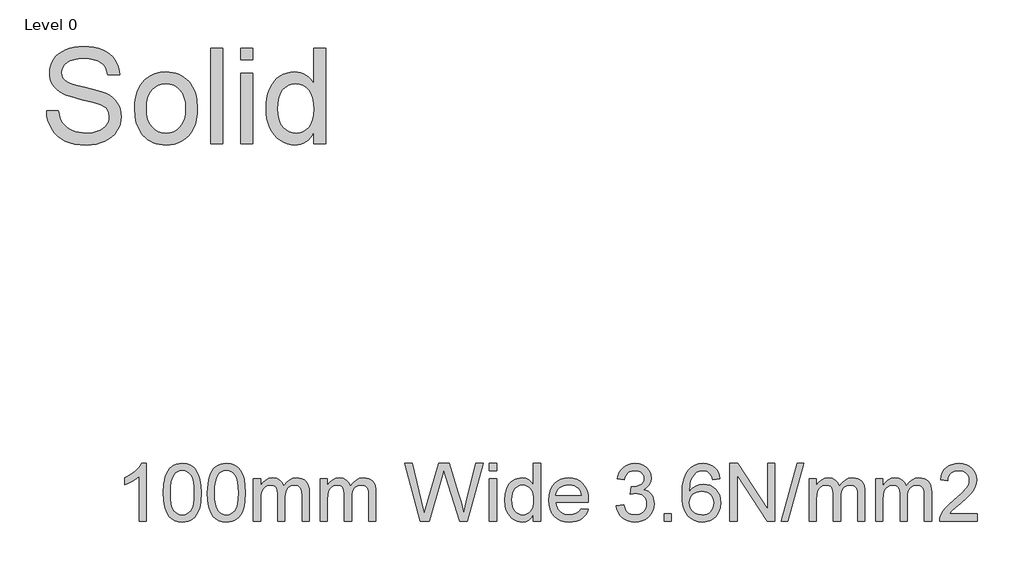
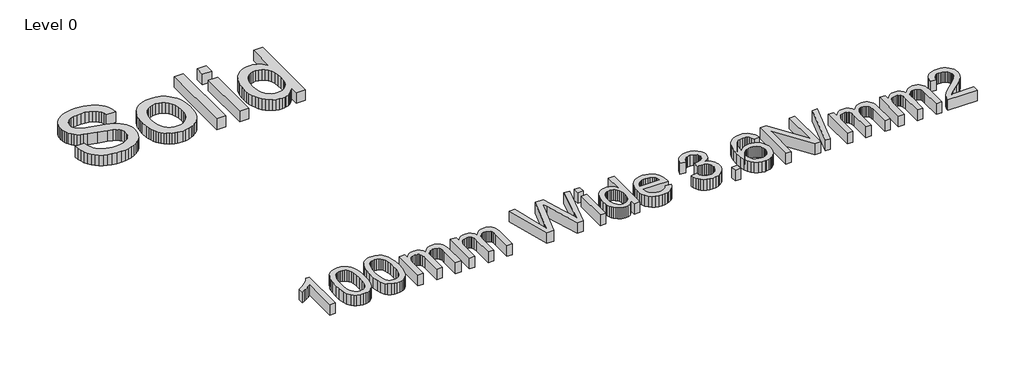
# One storey, part 4 of 4: 2 proxies.
"""IFC4 building model written with IfcOpenShell, lengths in millimetres."""

from ifc_helpers import new_model, si_unit, origin, origin_with_axes, place, context, project, spatial, polyline, outline, extrude, element, save

model = new_model("IFC4")

# Units and contexts
model_context = context("Model", 3, world=origin())
ifc_project = project(units=[si_unit("LENGTHUNIT", "METRE", prefix="MILLI")], contexts=[model_context])

# Site, building, storey
site = spatial("IfcSite", under=ifc_project)
building = spatial("IfcBuilding", under=site)
storey = spatial("IfcBuildingStorey", under=building, Name="Level 0", Elevation=0.0)

# Proxies
placement = place(None, origin())
element("IfcBuildingElementProxy", 1, Name="1000", ObjectType="1000", at=placement, inside=storey, context=model_context, shape_type="SweptSolid", body=[
    extrude(outline(polyline([(-39081.2208533, 23666.8068295), (-38958.7966109, 23666.8068295), (-38953.1924738, 23631.1719899), (-38944.7489073, 23598.8697438), (-38933.4659113, 23569.9000912), (-38919.3434859, 23544.2630322), (-38901.6643014, 23521.442986), (-38879.7110285, 23500.9243721), (-38853.483667, 23482.7071906), (-38822.9822169, 23466.7914413), (-38789.3275057, 23453.8720373), (-38753.6403609, 23444.6438916), (-38715.9207823, 23439.1070041), (-38676.1687699, 23437.261375), (-38607.9626857, 23442.8505677), (-38577.0427934, 23449.8370586), (-38548.245001, 23459.6181458), (-38522.2791659, 23471.8426368), (-38499.8551454, 23486.159339), (-38480.9729396, 23502.5682524), (-38465.6325484, 23521.0693769), (-38453.7592499, 23540.863189), (-38445.2783225, 23561.1501652), (-38440.189766, 23581.9303055), (-38438.4935806, 23603.2036098), (-38443.5746648, 23644.1810601), (-38458.8179177, 23679.5992064), (-38471.6401833, 23695.3132068), (-38489.7826431, 23709.8167135), (-38513.2452969, 23723.1097267), (-38542.0281449, 23735.1922462), (-38606.6774702, 23754.4107003), (-38720.284537, 23781.9382216), (-38837.2989191, 23812.8730582), (-38880.0024436, 23827.7800628), (-38912.1701904, 23842.3134583), (-38944.86099, 23861.8158553), (-38973.113313, 23883.5001297), (-38996.9271595, 23907.3662815), (-39016.3025294, 23933.4143106), (-39031.3141446, 23961.3752185), (-39042.0367269, 23990.9800066), (-39048.4702762, 24022.2286749), (-39050.6147927, 24055.1212235), (-39047.9621678, 24091.5780032), (-39040.0042931, 24126.8242893), (-39026.7411687, 24160.8600818), (-39008.1727946, 24193.6853807), (-38984.5083918, 24223.9626652), (-38955.9571814, 24250.3544148), (-38922.5191635, 24272.8606292), (-38884.1943381, 24291.4813087), (-38842.2753928, 24306.0744816), (-38798.0550152, 24316.4981766), (-38751.5332053, 24322.7523936), (-38702.7099631, 24324.8371326), (-38649.4482444, 24322.6552552), (-38599.4145086, 24316.1096231), (-38552.6087557, 24305.2002363), (-38509.0309859, 24289.9270947), (-38469.4881947, 24270.4246977), (-38434.7873779, 24246.8275445), (-38404.9285356, 24219.1356352), (-38379.9116677, 24187.3489697), (-38359.931051, 24152.3940987), (-38345.1809622, 24115.1975729), (-38335.6614013, 24075.7593923), (-38331.3723684, 24034.0795568), (-38453.7966109, 24034.0795568), (-38461.9861232, 24073.1441283), (-38476.2729366, 24107.1276155), (-38496.6570512, 24136.0300185), (-38523.1384669, 24159.8513371), (-38556.2103478, 24178.4720166), (-38596.365858, 24191.7725019), (-38643.6049975, 24199.7527931), (-38697.9277662, 24202.4128901), (-38753.9840813, 24199.7826818), (-38801.8807728, 24191.8920568), (-38841.6178407, 24178.7410151), (-38873.1952851, 24160.3295568), (-38897.2557136, 24138.1969515), (-38914.441734, 24113.8824687), (-38924.7533462, 24087.3861087), (-38928.1905503, 24058.7078712), (-38925.7546187, 24034.0347237), (-38918.4468239, 24011.6630085), (-38906.267166, 23991.5927256), (-38889.2156449, 23973.823875), (-38862.3755645, 23956.9965194), (-38820.1128987, 23939.9898314), (-38762.4276478, 23922.8038111), (-38689.3198116, 23905.4384583), (-38554.3423021, 23872.6206316), (-38506.8491085, 23857.7808766), (-38472.6862889, 23843.9872273), (-38435.1535149, 23823.0800599), (-38402.8961019, 23799.5725729), (-38375.9140499, 23773.4647663), (-38354.207359, 23744.7566401), (-38337.5219748, 23713.597638), (-38325.6038433, 23680.1372036), (-38318.4529644, 23644.3753369), (-38316.0693381, 23606.3120379), (-38318.8116292, 23568.0171012), (-38327.0385024, 23530.8429919), (-38340.7499578, 23494.7897101), (-38359.9459953, 23459.8572557), (-38384.2903668, 23427.3980937), (-38413.4468239, 23398.7646894), (-38447.4153668, 23373.9570426), (-38486.1959953, 23352.9751534), (-38528.66041, 23336.2897693), (-38573.6803111, 23324.3716378), (-38621.2556988, 23317.2207589), (-38671.386573, 23314.8371326), (-38734.0109367, 23317.4075634), (-38791.3300507, 23325.118856), (-38843.343915, 23337.9710104), (-38890.0525294, 23355.9640265), (-38931.7398371, 23379.1277931), (-38968.6897808, 23407.4921988), (-39000.9023607, 23441.0572438), (-39028.3775768, 23479.822928), (-39050.5101821, 23522.5339247), (-39066.69493, 23567.9349072), (-39076.9318204, 23616.0258755), (-39081.2208533, 23666.8068295)])), origin_with_axes(), (0.0, 0.0, 1.0), 150.0),
    extrude(outline(polyline([(-38178.3420654, 23689.761375), (-38176.6869769, 23737.9457455), (-38171.7217115, 23782.9096053), (-38163.4462691, 23824.6529544), (-38151.8606497, 23863.1757926), (-38136.9648533, 23898.4781201), (-38118.75888, 23930.5599368), (-38097.2427298, 23959.4212427), (-38072.4164025, 23985.0620379), (-38025.7600933, 24019.8973539), (-37974.2618097, 24044.7797225), (-37917.9215517, 24059.7091437), (-37856.7393192, 24064.6856174), (-37789.1982592, 24058.6256772), (-37757.8543205, 24051.0507519), (-37728.1281094, 24040.4458565), (-37700.0196259, 24026.810991), (-37673.52887, 24010.1461554), (-37648.6558416, 23990.4513497), (-37625.4005408, 23967.7265738), (-37604.3570061, 23942.3304927), (-37586.119276, 23914.6217709), (-37570.6873505, 23884.6004086), (-37558.0612297, 23852.2664058), (-37548.2409135, 23817.6197623), (-37541.2264019, 23780.6604783), (-37535.6147927, 23699.8039886), (-37538.0955574, 23634.2729458), (-37545.5378514, 23576.1244195), (-37557.9416748, 23525.3584098), (-37575.3070275, 23481.9749167), (-37597.4172163, 23444.5019201), (-37624.0555479, 23411.4674001), (-37655.2220222, 23382.8713566), (-37690.9166393, 23358.7137898), (-37729.7495731, 23339.5177522), (-37770.3309977, 23325.8062969), (-37812.6609131, 23317.5794236), (-37856.7393192, 23314.8371326), (-37925.2667073, 23320.8746562), (-37956.9468942, 23328.4215608), (-37986.904743, 23338.9872273), (-38015.1402536, 23352.5716555), (-38041.6534261, 23369.1748456), (-38066.4442604, 23388.7967976), (-38089.5127567, 23411.4375113), (-38110.3321259, 23436.9176546), (-38128.3755793, 23465.0578949), (-38143.6431167, 23495.8582322), (-38156.1347382, 23529.3186667), (-38165.8504439, 23565.4391981), (-38172.7902336, 23604.2198267), (-38178.3420654, 23689.761375)]), holes=[polyline([(-38055.917823, 23690.0004848), (-38052.3760083, 23630.6190484), (-38041.7505645, 23579.2029588), (-38024.0414913, 23535.752216), (-37999.2487889, 23500.2668201), (-37969.0910592, 23472.7019378), (-37935.2869044, 23453.0127363), (-37897.8363244, 23441.1992153), (-37856.7393192, 23437.261375), (-37815.8515351, 23441.2216319), (-37778.5503987, 23453.1024024), (-37744.8359101, 23472.9036868), (-37714.7080692, 23500.6254848), (-37689.9153668, 23536.4620734), (-37672.2062936, 23580.6077292), (-37661.5808497, 23633.0624522), (-37658.0390351, 23693.8262424), (-37661.6032663, 23751.3246888), (-37672.2959598, 23801.3957855), (-37690.1171157, 23844.0395325), (-37715.066734, 23879.2559299), (-37745.3066576, 23906.8208121), (-37778.9987297, 23926.5100137), (-37816.1429502, 23938.3235347), (-37856.7393192, 23942.261375), (-37897.8363244, 23938.338479), (-37935.2869044, 23926.5697912), (-37969.0910592, 23906.9553114), (-37999.2487889, 23879.4950398), (-38024.0414913, 23844.1142544), (-38041.7505645, 23800.7382334), (-38052.3760083, 23749.3669769), (-38055.917823, 23690.0004848)])]), origin_with_axes(), (0.0, 0.0, 1.0), 150.0),
    extrude(outline(polyline([(-37397.8875199, 23330.1401629), (-37397.8875199, 24309.5341023), (-37275.4632775, 24309.5341023), (-37275.4632775, 23330.1401629), (-37397.8875199, 23330.1401629)])), origin_with_axes(), (0.0, 0.0, 1.0), 150.0),
    extrude(outline(polyline([(-37091.8269139, 23330.1401629), (-37091.8269139, 24049.3825871), (-36969.4026715, 24049.3825871), (-36969.4026715, 23330.1401629), (-37091.8269139, 23330.1401629)])), origin_with_axes(), (0.0, 0.0, 1.0), 150.0),
    extrude(outline(polyline([(-37091.8269139, 24187.1098598), (-37091.8269139, 24309.5341023), (-36969.4026715, 24309.5341023), (-36969.4026715, 24187.1098598), (-37091.8269139, 24187.1098598)])), origin_with_axes(), (0.0, 0.0, 1.0), 150.0),
    extrude(outline(polyline([(-36341.978429, 23330.1401629), (-36341.978429, 23445.6302197), (-36359.3251013, 23414.9755899), (-36378.607069, 23388.4082441), (-36399.8243319, 23365.9281822), (-36422.9768902, 23347.5354043), (-36448.0647438, 23333.2299104), (-36475.0878928, 23323.0117005), (-36504.0463371, 23316.8807745), (-36534.9400768, 23314.8371326), (-36575.3496412, 23317.7961169), (-36614.0854366, 23326.6730701), (-36651.1474631, 23341.4679919), (-36686.5357207, 23362.1808826), (-36719.1443263, 23388.1915508), (-36747.8673968, 23418.8798054), (-36772.7049324, 23454.2456464), (-36793.6569328, 23494.2890738), (-36810.2900117, 23538.2479251), (-36822.1707823, 23585.3600374), (-36829.2992446, 23635.6254109), (-36831.6753987, 23689.0440454), (-36829.4860492, 23741.4838241), (-36822.9180005, 23791.4428381), (-36811.9712528, 23838.9210873), (-36796.6458059, 23883.918572), (-36776.9491322, 23925.1201877), (-36752.8887037, 23961.2108305), (-36724.4645204, 23992.1905002), (-36691.6765824, 24018.059197), (-36655.6830781, 24038.4582559), (-36617.6421956, 24053.0290123), (-36577.5539351, 24061.7714661), (-36535.4182965, 24064.6856174), (-36504.6030147, 24062.6008784), (-36475.5212794, 24056.3466614), (-36448.1730905, 24045.9229665), (-36422.558448, 24031.3297935), (-36398.9612948, 24013.4040271), (-36377.6655739, 23992.9825516), (-36358.6712853, 23970.0653671), (-36341.978429, 23944.6524735), (-36341.978429, 24309.5341023), (-36219.5541866, 24309.5341023), (-36219.5541866, 23330.1401629), (-36341.978429, 23330.1401629)]), holes=[polyline([(-36709.2511563, 23689.5222651), (-36705.7990079, 23630.1557731), (-36695.4425626, 23578.7845166), (-36678.1818204, 23535.4084956), (-36654.0167813, 23500.0277102), (-36625.1592115, 23472.5674386), (-36593.820877, 23452.9529588), (-36560.0017778, 23441.1842709), (-36523.7019139, 23437.261375), (-36487.2301898, 23441.0049386), (-36453.6128396, 23452.2356292), (-36422.8498631, 23470.9534471), (-36394.9412605, 23497.158392), (-36371.7700217, 23531.0596852), (-36355.2191369, 23572.8665478), (-36345.288606, 23622.5789797), (-36341.978429, 23680.196981), (-36345.3483835, 23743.3668141), (-36355.4582467, 23797.5401392), (-36372.3080189, 23842.7169562), (-36395.8976999, 23878.8972651), (-36424.4190215, 23906.6190632), (-36456.0637155, 23926.4203475), (-36490.8317819, 23938.3011181), (-36528.7232207, 23942.261375), (-36565.7404141, 23938.458034), (-36599.5595133, 23927.0480109), (-36630.1805183, 23908.0313057), (-36657.603429, 23881.4079185), (-36680.1993097, 23846.595019), (-36696.3392245, 23803.009777), (-36706.0231734, 23750.6521923), (-36709.2511563, 23689.5222651)])]), origin_with_axes(), (0.0, 0.0, 1.0), 150.0),
])
element("IfcBuildingElementProxy", 2, Name="600mm Arial", ObjectType="600mm Arial", at=placement, inside=storey, context=model_context, shape_type="SweptSolid", body=[
    extrude(outline(polyline([(-38059.2188157, 19460.2090521), (-38133.0649696, 19460.2090521), (-38133.0649696, 19920.5936675), (-38163.8942965, 19895.6597732), (-38203.0168926, 19870.7619367), (-38244.0866042, 19849.0011194), (-38280.7572773, 19833.4782829), (-38280.7572773, 19903.2859752), (-38222.7584792, 19934.8364559), (-38172.512085, 19972.3725136), (-38132.90271, 20012.288379), (-38106.8149696, 20050.9782829), (-38059.2188157, 20050.9782829), (-38059.2188157, 19460.2090521)])), origin_with_axes(), (0.0, 0.0, 1.0), 150.0),
    extrude(outline(polyline([(-37883.8342003, 19750.8340521), (-37878.4075176, 19845.3953502), (-37871.6241643, 19885.4960112), (-37862.1274696, 19920.8100136), (-37849.9579984, 19951.6258189), (-37835.1563157, 19978.2318886), (-37817.7224215, 20000.6282228), (-37797.6563157, 20018.8148213), (-37774.8903902, 20032.8863357), (-37749.3570369, 20042.9374175), (-37721.0562556, 20048.9680665), (-37689.9880465, 20050.9782829), (-37644.4832388, 20046.2186675), (-37603.7380465, 20031.9398213), (-37569.6635273, 20008.7006386), (-37544.1707388, 19977.0600136), (-37524.9159311, 19937.288379), (-37509.5553542, 19889.6561675), (-37499.495258, 19829.1693886), (-37496.1418926, 19750.8340521), (-37501.5144888, 19656.8136194), (-37508.230234, 19616.8481747), (-37517.6322773, 19581.5792444), (-37529.707097, 19550.7499175), (-37544.4411715, 19524.1032829), (-37561.8345008, 19501.6393405), (-37581.887085, 19483.3580905), (-37604.6800537, 19469.1919247), (-37630.2945369, 19459.0732348), (-37658.7305345, 19453.0020208), (-37689.9880465, 19450.9782829), (-37730.6611234, 19454.4939079), (-37766.7188157, 19465.0407829), (-37798.1611234, 19482.6189079), (-37824.9880465, 19507.2282829), (-37850.7332388, 19551.7144607), (-37869.1226619, 19607.1441482), (-37880.1563157, 19673.5173454), (-37883.8342003, 19750.8340521)]), holes=[polyline([(-37809.9880465, 19750.9782829), (-37807.824585, 19686.7820689), (-37801.3342003, 19634.8184271), (-37790.5168926, 19595.0873574), (-37775.3726619, 19567.5888598), (-37757.0553542, 19548.8794247), (-37736.7188157, 19535.5155425), (-37714.3630465, 19527.4972131), (-37689.9880465, 19524.8244367), (-37665.6130465, 19527.5062276), (-37643.2572773, 19535.5516002), (-37622.9207388, 19548.9605545), (-37604.6034311, 19567.7330905), (-37589.4592003, 19595.2766603), (-37578.6418926, 19634.9987155), (-37572.151508, 19686.8992564), (-37569.9880465, 19750.9782829), (-37572.0793926, 19813.475278), (-37578.3534311, 19864.5239559), (-37588.8101619, 19904.1243165), (-37603.449585, 19932.2763598), (-37621.4604023, 19951.9007588), (-37642.0313157, 19965.9181867), (-37665.1623253, 19974.3286434), (-37690.8534311, 19977.132129), (-37715.1022292, 19974.6621771), (-37737.0793926, 19967.2523213), (-37756.7849215, 19954.9025617), (-37774.2188157, 19937.6128982), (-37789.8678542, 19906.9638598), (-37801.0457388, 19865.6417444), (-37807.7524696, 19813.6465521), (-37809.9880465, 19750.9782829)])]), origin_with_axes(), (0.0, 0.0, 1.0), 150.0),
    extrude(outline(polyline([(-37431.526508, 19750.8340521), (-37426.0998253, 19845.3953502), (-37419.316472, 19885.4960112), (-37409.8197773, 19920.8100136), (-37397.6503061, 19951.6258189), (-37382.8486234, 19978.2318886), (-37365.4147292, 20000.6282228), (-37345.3486234, 20018.8148213), (-37322.5826979, 20032.8863357), (-37297.0493446, 20042.9374175), (-37268.7485633, 20048.9680665), (-37237.6803542, 20050.9782829), (-37192.1755465, 20046.2186675), (-37151.4303542, 20031.9398213), (-37117.355835, 20008.7006386), (-37091.8630465, 19977.0600136), (-37072.6082388, 19937.288379), (-37057.2476619, 19889.6561675), (-37047.1875657, 19829.1693886), (-37043.8342003, 19750.8340521), (-37049.2067965, 19656.8136194), (-37055.9225417, 19616.8481747), (-37065.324585, 19581.5792444), (-37077.3994047, 19550.7499175), (-37092.1334792, 19524.1032829), (-37109.5268085, 19501.6393405), (-37129.5793926, 19483.3580905), (-37152.3723614, 19469.1919247), (-37177.9868446, 19459.0732348), (-37206.4228422, 19453.0020208), (-37237.6803542, 19450.9782829), (-37278.3534311, 19454.4939079), (-37314.4111234, 19465.0407829), (-37345.8534311, 19482.6189079), (-37372.6803542, 19507.2282829), (-37398.4255465, 19551.7144607), (-37416.8149696, 19607.1441482), (-37427.8486234, 19673.5173454), (-37431.526508, 19750.8340521)]), holes=[polyline([(-37357.6803542, 19750.9782829), (-37355.5168926, 19686.7820689), (-37349.026508, 19634.8184271), (-37338.2092003, 19595.0873574), (-37323.0649696, 19567.5888598), (-37304.7476619, 19548.8794247), (-37284.4111234, 19535.5155425), (-37262.0553542, 19527.4972131), (-37237.6803542, 19524.8244367), (-37213.3053542, 19527.5062276), (-37190.949585, 19535.5516002), (-37170.6130465, 19548.9605545), (-37152.2957388, 19567.7330905), (-37137.151508, 19595.2766603), (-37126.3342003, 19634.9987155), (-37119.8438157, 19686.8992564), (-37117.6803542, 19750.9782829), (-37119.7717003, 19813.475278), (-37126.0457388, 19864.5239559), (-37136.5024696, 19904.1243165), (-37151.1418926, 19932.2763598), (-37169.15271, 19951.9007588), (-37189.7236234, 19965.9181867), (-37212.854633, 19974.3286434), (-37238.5457388, 19977.132129), (-37262.7945369, 19974.6621771), (-37284.7717003, 19967.2523213), (-37304.4772292, 19954.9025617), (-37321.9111234, 19937.6128982), (-37337.5601619, 19906.9638598), (-37348.7380465, 19865.6417444), (-37355.4447773, 19813.6465521), (-37357.6803542, 19750.9782829)])]), origin_with_axes(), (0.0, 0.0, 1.0), 150.0),
    extrude(outline(polyline([(-36960.7572773, 19460.2090521), (-36960.7572773, 19894.0552059), (-36886.9111234, 19894.0552059), (-36886.9111234, 19822.6609752), (-36864.699585, 19855.4554463), (-36836.1418926, 19881.1465521), (-36802.2116042, 19897.7511194), (-36763.8822773, 19903.2859752), (-36722.8125657, 19897.6429463), (-36705.3335994, 19890.5891603), (-36689.8918926, 19880.7138598), (-36665.3005465, 19853.616504), (-36649.2188157, 19817.4686675), (-36622.3017484, 19855.0137396), (-36591.5986234, 19881.8316482), (-36557.1094407, 19897.9223934), (-36518.8342003, 19903.2859752), (-36489.2713999, 19901.0549054), (-36463.323383, 19894.3616963), (-36440.9901499, 19883.2063478), (-36422.2717003, 19867.5888598), (-36407.4745249, 19847.3289439), (-36396.9051138, 19822.2463117), (-36390.5634672, 19792.3409631), (-36388.449585, 19757.6128982), (-36388.449585, 19460.2090521), (-36462.2957388, 19460.2090521), (-36462.2957388, 19725.882129), (-36464.0084792, 19762.7150617), (-36469.1467003, 19787.5407829), (-36478.7741042, 19804.5419848), (-36493.9543926, 19817.9013598), (-36513.479633, 19826.5552059), (-36536.1418926, 19829.4398213), (-36557.0688758, 19827.5918646), (-36576.1479023, 19822.0479944), (-36593.378972, 19812.8082107), (-36608.762085, 19799.8725136), (-36621.4138277, 19782.8622973), (-36630.4507869, 19761.3989559), (-36635.8729624, 19735.4824896), (-36637.6803542, 19705.1128982), (-36637.6803542, 19460.2090521), (-36711.526508, 19460.2090521), (-36711.526508, 19734.1032829), (-36715.7993446, 19775.8580905), (-36728.6178542, 19805.6417444), (-36738.5292124, 19816.053403), (-36751.1719407, 19823.4903021), (-36766.5460393, 19827.9524415), (-36784.651508, 19829.4398213), (-36813.1010273, 19825.4734752), (-36839.3149696, 19813.5744367), (-36860.949585, 19794.0311675), (-36875.6611234, 19767.132129), (-36884.0986234, 19729.8124175), (-36886.9111234, 19679.007129), (-36886.9111234, 19460.2090521), (-36960.7572773, 19460.2090521)])), origin_with_axes(), (0.0, 0.0, 1.0), 150.0),
    extrude(outline(polyline([(-36277.6803542, 19460.2090521), (-36277.6803542, 19894.0552059), (-36203.8342003, 19894.0552059), (-36203.8342003, 19822.6609752), (-36181.6226619, 19855.4554463), (-36153.0649696, 19881.1465521), (-36119.1346811, 19897.7511194), (-36080.8053542, 19903.2859752), (-36039.7356426, 19897.6429463), (-36022.2566763, 19890.5891603), (-36006.8149696, 19880.7138598), (-35982.2236234, 19853.616504), (-35966.1418926, 19817.4686675), (-35939.2248253, 19855.0137396), (-35908.5217003, 19881.8316482), (-35874.0325176, 19897.9223934), (-35835.7572773, 19903.2859752), (-35806.1944768, 19901.0549054), (-35780.24646, 19894.3616963), (-35757.9132268, 19883.2063478), (-35739.1947773, 19867.5888598), (-35724.3976018, 19847.3289439), (-35713.8281907, 19822.2463117), (-35707.4865441, 19792.3409631), (-35705.3726619, 19757.6128982), (-35705.3726619, 19460.2090521), (-35779.2188157, 19460.2090521), (-35779.2188157, 19725.882129), (-35780.9315561, 19762.7150617), (-35786.0697773, 19787.5407829), (-35795.6971811, 19804.5419848), (-35810.8774696, 19817.9013598), (-35830.40271, 19826.5552059), (-35853.0649696, 19829.4398213), (-35873.9919527, 19827.5918646), (-35893.0709792, 19822.0479944), (-35910.3020489, 19812.8082107), (-35925.6851619, 19799.8725136), (-35938.3369047, 19782.8622973), (-35947.3738638, 19761.3989559), (-35952.7960393, 19735.4824896), (-35954.6034311, 19705.1128982), (-35954.6034311, 19460.2090521), (-36028.449585, 19460.2090521), (-36028.449585, 19734.1032829), (-36032.7224215, 19775.8580905), (-36045.5409311, 19805.6417444), (-36055.4522893, 19816.053403), (-36068.0950176, 19823.4903021), (-36083.4691162, 19827.9524415), (-36101.574585, 19829.4398213), (-36130.0241042, 19825.4734752), (-36156.2380465, 19813.5744367), (-36177.8726619, 19794.0311675), (-36192.5842003, 19767.132129), (-36201.0217003, 19729.8124175), (-36203.8342003, 19679.007129), (-36203.8342003, 19460.2090521), (-36277.6803542, 19460.2090521)])), origin_with_axes(), (0.0, 0.0, 1.0), 150.0),
    extrude(outline(polyline([(-35248.8822773, 19460.2090521), (-35409.9880465, 20050.9782829), (-35333.8342003, 20050.9782829), (-35240.3726619, 19662.7090521), (-35211.526508, 19542.8532829), (-35180.6611234, 19648.8628982), (-35063.5457388, 20050.9782829), (-34953.7861234, 20050.9782829), (-34868.6899696, 19759.4878982), (-34832.2356426, 19651.3148213), (-34805.3726619, 19542.8532829), (-34777.3918926, 19659.2475136), (-34683.0649696, 20050.9782829), (-34606.9111234, 20050.9782829), (-34768.1611234, 19460.2090521), (-34847.0553542, 19460.2090521), (-34988.6899696, 19915.9782829), (-35008.449585, 19979.5840521), (-35030.6611234, 19902.9975136), (-35159.7476619, 19460.2090521), (-35248.8822773, 19460.2090521)])), origin_with_axes(), (0.0, 0.0, 1.0), 150.0),
    extrude(outline(polyline([(-34542.2957388, 19460.2090521), (-34542.2957388, 19894.0552059), (-34468.449585, 19894.0552059), (-34468.449585, 19460.2090521), (-34542.2957388, 19460.2090521)])), origin_with_axes(), (0.0, 0.0, 1.0), 150.0),
    extrude(outline(polyline([(-34542.2957388, 19977.132129), (-34542.2957388, 20050.9782829), (-34468.449585, 20050.9782829), (-34468.449585, 19977.132129), (-34542.2957388, 19977.132129)])), origin_with_axes(), (0.0, 0.0, 1.0), 150.0),
    extrude(outline(polyline([(-34089.9880465, 19460.2090521), (-34089.9880465, 19529.8725136), (-34112.0823975, 19495.3562877), (-34138.8462196, 19470.7018405), (-34170.2795128, 19455.9091723), (-34206.3822773, 19450.9782829), (-34230.7572773, 19452.7631386), (-34254.1226619, 19458.1177059), (-34276.4784311, 19467.0419848), (-34297.824585, 19479.5359752), (-34317.4940561, 19495.2255785), (-34334.8197773, 19513.7366963), (-34349.8017484, 19535.0693285), (-34362.4399696, 19559.2234752), (-34372.4730225, 19585.7394006), (-34379.6394888, 19614.1573694), (-34385.3726619, 19676.6994367), (-34380.09021, 19738.4662636), (-34364.2428542, 19794.2475136), (-34352.3618446, 19819.100278), (-34337.8486234, 19840.8701098), (-34320.7031907, 19859.5570088), (-34300.9255465, 19875.1609752), (-34279.2143085, 19887.4656627), (-34256.2680946, 19896.2547252), (-34232.0869047, 19901.5281627), (-34206.6707388, 19903.2859752), (-34170.5409311, 19898.2559271), (-34138.5938157, 19883.1657829), (-34111.5144888, 19860.0347732), (-34089.9880465, 19830.882129), (-34089.9880465, 20050.9782829), (-34016.1418926, 20050.9782829), (-34016.1418926, 19460.2090521), (-34089.9880465, 19460.2090521)]), holes=[polyline([(-34311.526508, 19676.9878982), (-34309.4441763, 19641.1781026), (-34303.1971811, 19610.1910232), (-34292.7855225, 19584.0266603), (-34278.2092003, 19562.6850136), (-34260.8023494, 19546.1210112), (-34241.8991042, 19534.2895809), (-34221.4994648, 19527.1907228), (-34199.6034311, 19524.8244367), (-34177.6037316, 19527.0825497), (-34157.3257869, 19533.8568886), (-34138.769597, 19545.1474535), (-34121.9351619, 19560.9542444), (-34107.9582989, 19581.4034631), (-34097.9748253, 19606.6213117), (-34091.9847412, 19636.6077901), (-34089.9880465, 19671.3628982), (-34092.0207989, 19709.4668646), (-34098.1190561, 19742.1441482), (-34108.2828181, 19769.3947492), (-34122.512085, 19791.2186675), (-34139.7161114, 19807.9404223), (-34158.8041523, 19819.8845329), (-34179.7762075, 19827.0509992), (-34202.6322773, 19829.4398213), (-34224.9610032, 19827.1456506), (-34245.3606426, 19820.2631386), (-34263.8311955, 19808.7922853), (-34280.3726619, 19792.7330905), (-34294.0024696, 19771.733992), (-34303.7380465, 19745.4434271), (-34309.5793926, 19713.8613958), (-34311.526508, 19676.9878982)])]), origin_with_axes(), (0.0, 0.0, 1.0), 150.0),
    extrude(outline(polyline([(-33601.6226619, 19589.4398213), (-33529.2188157, 19580.2090521), (-33540.3200777, 19551.209653), (-33555.3065561, 19525.6537636), (-33574.1782508, 19503.5413838), (-33596.9351619, 19484.8725136), (-33623.3429143, 19470.0437877), (-33653.167133, 19459.4518405), (-33686.4078181, 19453.0966723), (-33723.0649696, 19450.9782829), (-33768.8852821, 19454.6336314), (-33809.7116042, 19465.5996771), (-33845.5439359, 19483.8764199), (-33876.3822773, 19509.4638598), (-33901.1809551, 19541.6498574), (-33918.8942965, 19579.7222732), (-33929.5223013, 19623.6811074), (-33933.0649696, 19673.5263598), (-33929.4862436, 19725.0618165), (-33918.7500657, 19770.4854944), (-33900.8564359, 19809.7973934), (-33875.8053542, 19842.9975136), (-33845.0481426, 19869.3737155), (-33810.0361234, 19888.2138598), (-33770.7692965, 19899.5179463), (-33727.2476619, 19903.2859752), (-33685.12777, 19899.5269607), (-33647.0373253, 19888.2499175), (-33612.9763277, 19869.4548454), (-33582.9447773, 19843.1417444), (-33558.4300537, 19810.0137396), (-33540.9195369, 19770.7739559), (-33530.4132268, 19725.4223934), (-33526.9111234, 19673.9590521), (-33527.3438157, 19654.0552059), (-33859.2188157, 19654.0552059), (-33854.941472, 19624.5870569), (-33846.4363638, 19598.7787636), (-33833.7034912, 19576.6303261), (-33816.7428542, 19558.1417444), (-33796.4919527, 19543.5654223), (-33773.8882869, 19533.1537636), (-33748.9318566, 19526.9067684), (-33721.6226619, 19524.8244367), (-33682.3197773, 19528.6826098), (-33649.2188157, 19540.257129), (-33622.3197773, 19560.2691482), (-33601.6226619, 19589.4398213)]), holes=[polyline([(-33859.2188157, 19727.9013598), (-33600.7572773, 19727.9013598), (-33610.745258, 19766.9157829), (-33619.3360032, 19782.2583309), (-33630.324585, 19794.8244367), (-33650.4628061, 19809.9686675), (-33673.3774696, 19820.7859752), (-33699.0685753, 19827.2763598), (-33727.5361234, 19829.4398213), (-33753.5021691, 19827.7135593), (-33777.3137676, 19822.5347732), (-33798.9709191, 19813.9034631), (-33818.4736234, 19801.819629), (-33834.8393085, 19786.8421651), (-33847.0854023, 19769.5299655), (-33855.2119047, 19749.8830304), (-33859.2188157, 19727.9013598)])]), origin_with_axes(), (0.0, 0.0, 1.0), 150.0),
    extrude(outline(polyline([(-33240.7572773, 19617.132129), (-33166.9111234, 19626.3628982), (-33150.3786715, 19579.9566482), (-33139.2323374, 19562.4055665), (-33126.1659311, 19548.6225136), (-33110.8819768, 19538.210855), (-33093.0829984, 19530.7739559), (-33072.768996, 19526.3118165), (-33049.9399696, 19524.8244367), (-33023.1851619, 19526.8707107), (-32999.3149696, 19533.0095329), (-32978.3293926, 19543.240903), (-32960.2284311, 19557.5648213), (-32945.652109, 19574.9085713), (-32935.2404503, 19594.1994367), (-32928.9934551, 19615.4374175), (-32926.9111234, 19638.6225136), (-32928.9754263, 19660.7033429), (-32935.168335, 19680.7919848), (-32945.4898494, 19698.8884391), (-32959.9399696, 19714.9927059), (-32977.5721811, 19728.2123574), (-32997.4399696, 19737.6549655), (-33019.543335, 19743.3205304), (-33043.8822773, 19745.2090521), (-33067.2116042, 19743.1898213), (-33095.6611234, 19737.132129), (-33087.4399696, 19810.9782829), (-33075.6130465, 19810.1128982), (-33031.370258, 19815.413379), (-32991.8149696, 19831.3148213), (-32975.5349215, 19843.3400617), (-32963.9063157, 19858.2138598), (-32956.9291523, 19875.9362155), (-32954.6034311, 19896.507129), (-32956.2891282, 19913.2063478), (-32961.3462196, 19928.4001579), (-32969.7747051, 19942.0885593), (-32981.574585, 19954.2715521), (-32996.0337196, 19964.2730545), (-33012.4399696, 19971.4169848), (-33051.0938157, 19977.132129), (-33089.8197773, 19971.3628982), (-33106.5325176, 19964.1513598), (-33121.4784311, 19954.0552059), (-33134.2879263, 19941.0744367), (-33144.5914119, 19925.2090521), (-33152.3888878, 19906.4590521), (-33157.6803542, 19884.8244367), (-33231.526508, 19894.0552059), (-33222.7735032, 19929.3106146), (-33209.7837196, 19960.3653021), (-33192.5571571, 19987.2192684), (-33171.0938157, 20009.8725136), (-33146.0697773, 20027.8562877), (-33118.1611234, 20040.7018405), (-33087.3678542, 20048.4091723), (-33053.6899696, 20050.9782829), (-33007.2656907, 20045.9121771), (-32964.6274696, 20030.7138598), (-32928.6779503, 20006.7354944), (-32902.3197773, 19975.3292444), (-32886.1479023, 19939.1453502), (-32880.7572773, 19900.8340521), (-32885.8774696, 19865.1369367), (-32901.2380465, 19832.757129), (-32926.6226619, 19805.1729944), (-32961.8149696, 19783.8628982), (-32937.2055946, 19776.1645809), (-32915.589008, 19765.1850136), (-32896.96521, 19750.9241963), (-32881.3342003, 19733.382129), (-32868.9664119, 19712.991504), (-32860.1322773, 19690.1850136), (-32854.8317965, 19664.9626579), (-32853.0649696, 19637.3244367), (-32856.5986234, 19599.8604944), (-32867.199585, 19565.3532829), (-32884.8678542, 19533.8028021), (-32909.6034311, 19505.2090521), (-32939.7386475, 19481.4830905), (-32973.605835, 19464.5359752), (-33011.2049936, 19454.3677059), (-33052.5361234, 19450.9782829), (-33089.8918926, 19453.8719127), (-33123.9303542, 19462.5528021), (-33154.651508, 19477.0209511), (-33182.0553542, 19497.2763598), (-33205.0331186, 19522.1291242), (-33222.4760273, 19550.3893405), (-33234.3840801, 19582.0570088), (-33240.7572773, 19617.132129)])), origin_with_axes(), (0.0, 0.0, 1.0), 150.0),
    extrude(outline(polyline([(-32751.526508, 19460.2090521), (-32751.526508, 19534.0552059), (-32677.6803542, 19534.0552059), (-32677.6803542, 19460.2090521), (-32751.526508, 19460.2090521)])), origin_with_axes(), (0.0, 0.0, 1.0), 150.0),
    extrude(outline(polyline([(-32179.2188157, 19894.0552059), (-32253.0649696, 19884.8244367), (-32264.964008, 19921.4229944), (-32281.0457388, 19946.4109752), (-32296.9201378, 19959.85148), (-32314.543335, 19969.4518405), (-32333.9153301, 19975.2120569), (-32355.0361234, 19977.132129), (-32389.3630465, 19972.6609752), (-32421.6707388, 19959.2475136), (-32449.417133, 19930.9963117), (-32472.0793926, 19892.1080905), (-32480.9360633, 19867.3049054), (-32487.385883, 19837.1020809), (-32493.0649696, 19760.4975136), (-32463.4435753, 19795.0588117), (-32427.9447773, 19819.4157829), (-32388.5517484, 19833.8568886), (-32347.2476619, 19838.6705905), (-32311.7668926, 19835.3803261), (-32279.026508, 19825.5095329), (-32249.026508, 19809.0582107), (-32221.7668926, 19786.0263598), (-32199.1136475, 19757.7841723), (-32182.932758, 19725.7018405), (-32173.2242244, 19689.7793646), (-32169.9880465, 19650.0167444), (-32176.0817965, 19597.1381386), (-32183.698984, 19572.1456506), (-32194.3630465, 19548.1177059), (-32207.6953782, 19525.9512396), (-32223.3173734, 19506.5431867), (-32241.2290321, 19489.8935473), (-32261.4303542, 19476.0023213), (-32283.4886475, 19465.0543045), (-32306.9712196, 19457.2342925), (-32331.8780705, 19452.5422853), (-32358.2092003, 19450.9782829), (-32402.2311354, 19455.1249175), (-32441.9892484, 19467.5648213), (-32477.4835393, 19488.2979944), (-32508.714008, 19517.3244367), (-32534.175246, 19555.8701098), (-32552.3618446, 19605.1609752), (-32563.2738037, 19665.1970329), (-32566.9111234, 19735.9782829), (-32562.8726619, 19815.3322492), (-32550.7572773, 19883.0576098), (-32530.5649696, 19939.1543646), (-32517.4399696, 19962.8420148), (-32502.2957388, 19983.6225136), (-32471.6557148, 20013.0906627), (-32436.1298734, 20034.1393405), (-32395.7182148, 20046.7685473), (-32350.4207388, 20050.9782829), (-32316.4093205, 20048.3731146), (-32285.6250657, 20040.5576098), (-32258.0679744, 20027.5317684), (-32233.7380465, 20009.2955905), (-32213.293335, 19986.4620569), (-32197.3918926, 19959.6441482), (-32186.0337196, 19928.8418646), (-32179.2188157, 19894.0552059)]), holes=[polyline([(-32493.0649696, 19651.1705905), (-32488.792133, 19618.4482348), (-32475.9736234, 19587.2042444), (-32456.0697773, 19560.3412636), (-32430.5409311, 19540.7619367), (-32399.729633, 19528.8088117), (-32363.9784311, 19524.8244367), (-32338.3098614, 19526.8887396), (-32315.24646, 19533.0816482), (-32294.7882268, 19543.4031627), (-32276.9351619, 19557.8532829), (-32262.4534912, 19575.8460713), (-32252.1094407, 19596.7955905), (-32245.9030104, 19620.7018405), (-32243.8342003, 19647.5648213), (-32245.8759672, 19673.3776218), (-32252.0012676, 19696.2967925), (-32262.2101018, 19716.3223333), (-32276.5024696, 19733.4542444), (-32294.409621, 19747.1787035), (-32315.4628061, 19756.9818886), (-32339.6620249, 19762.8637997), (-32367.0072773, 19764.8244367), (-32392.3332989, 19762.8637997), (-32415.667133, 19756.9818886), (-32437.0087797, 19747.1787035), (-32456.3582388, 19733.4542444), (-32472.4174335, 19716.5476939), (-32483.8882869, 19697.1982348), (-32490.7707989, 19675.405867), (-32493.0649696, 19651.1705905)])]), origin_with_axes(), (0.0, 0.0, 1.0), 150.0),
    extrude(outline(polyline([(-32077.6803542, 19460.2090521), (-32077.6803542, 20050.9782829), (-31998.6418926, 20050.9782829), (-31689.9880465, 19582.9494367), (-31689.9880465, 20050.9782829), (-31616.1418926, 20050.9782829), (-31616.1418926, 19460.2090521), (-31695.1803542, 19460.2090521), (-32003.8342003, 19928.382129), (-32003.8342003, 19460.2090521), (-32077.6803542, 19460.2090521)])), origin_with_axes(), (0.0, 0.0, 1.0), 150.0),
    extrude(outline(polyline([(-31551.526508, 19460.2090521), (-31385.3726619, 20050.9782829), (-31318.7380465, 20050.9782829), (-31484.8918926, 19460.2090521), (-31551.526508, 19460.2090521)])), origin_with_axes(), (0.0, 0.0, 1.0), 150.0),
    extrude(outline(polyline([(-31265.3726619, 19460.2090521), (-31265.3726619, 19894.0552059), (-31191.526508, 19894.0552059), (-31191.526508, 19822.6609752), (-31169.3149696, 19855.4554463), (-31140.7572773, 19881.1465521), (-31106.8269888, 19897.7511194), (-31068.4976619, 19903.2859752), (-31027.4279503, 19897.6429463), (-31009.948984, 19890.5891603), (-30994.5072773, 19880.7138598), (-30969.9159311, 19853.616504), (-30953.8342003, 19817.4686675), (-30926.917133, 19855.0137396), (-30896.214008, 19881.8316482), (-30861.7248253, 19897.9223934), (-30823.449585, 19903.2859752), (-30793.8867845, 19901.0549054), (-30767.9387676, 19894.3616963), (-30745.6055345, 19883.2063478), (-30726.887085, 19867.5888598), (-30712.0899095, 19847.3289439), (-30701.5204984, 19822.2463117), (-30695.1788518, 19792.3409631), (-30693.0649696, 19757.6128982), (-30693.0649696, 19460.2090521), (-30766.9111234, 19460.2090521), (-30766.9111234, 19725.882129), (-30768.6238638, 19762.7150617), (-30773.762085, 19787.5407829), (-30783.3894888, 19804.5419848), (-30798.5697773, 19817.9013598), (-30818.0950176, 19826.5552059), (-30840.7572773, 19829.4398213), (-30861.6842604, 19827.5918646), (-30880.7632869, 19822.0479944), (-30897.9943566, 19812.8082107), (-30913.3774696, 19799.8725136), (-30926.0292124, 19782.8622973), (-30935.0661715, 19761.3989559), (-30940.488347, 19735.4824896), (-30942.2957388, 19705.1128982), (-30942.2957388, 19460.2090521), (-31016.1418926, 19460.2090521), (-31016.1418926, 19734.1032829), (-31020.4147292, 19775.8580905), (-31033.2332388, 19805.6417444), (-31043.144597, 19816.053403), (-31055.7873253, 19823.4903021), (-31071.1614239, 19827.9524415), (-31089.2668926, 19829.4398213), (-31117.7164119, 19825.4734752), (-31143.9303542, 19813.5744367), (-31165.5649696, 19794.0311675), (-31180.276508, 19767.132129), (-31188.714008, 19729.8124175), (-31191.526508, 19679.007129), (-31191.526508, 19460.2090521), (-31265.3726619, 19460.2090521)])), origin_with_axes(), (0.0, 0.0, 1.0), 150.0),
    extrude(outline(polyline([(-30582.2957388, 19460.2090521), (-30582.2957388, 19894.0552059), (-30508.449585, 19894.0552059), (-30508.449585, 19822.6609752), (-30486.2380465, 19855.4554463), (-30457.6803542, 19881.1465521), (-30423.7500657, 19897.7511194), (-30385.4207388, 19903.2859752), (-30344.3510273, 19897.6429463), (-30326.8720609, 19890.5891603), (-30311.4303542, 19880.7138598), (-30286.839008, 19853.616504), (-30270.7572773, 19817.4686675), (-30243.84021, 19855.0137396), (-30213.137085, 19881.8316482), (-30178.6479023, 19897.9223934), (-30140.3726619, 19903.2859752), (-30110.8098614, 19901.0549054), (-30084.8618446, 19894.3616963), (-30062.5286114, 19883.2063478), (-30043.8101619, 19867.5888598), (-30029.0129864, 19847.3289439), (-30018.4435753, 19822.2463117), (-30012.1019287, 19792.3409631), (-30009.9880465, 19757.6128982), (-30009.9880465, 19460.2090521), (-30083.8342003, 19460.2090521), (-30083.8342003, 19725.882129), (-30085.5469407, 19762.7150617), (-30090.6851619, 19787.5407829), (-30100.3125657, 19804.5419848), (-30115.4928542, 19817.9013598), (-30135.0180946, 19826.5552059), (-30157.6803542, 19829.4398213), (-30178.6073374, 19827.5918646), (-30197.6863638, 19822.0479944), (-30214.9174335, 19812.8082107), (-30230.3005465, 19799.8725136), (-30242.9522893, 19782.8622973), (-30251.9892484, 19761.3989559), (-30257.4114239, 19735.4824896), (-30259.2188157, 19705.1128982), (-30259.2188157, 19460.2090521), (-30333.0649696, 19460.2090521), (-30333.0649696, 19734.1032829), (-30337.3378061, 19775.8580905), (-30350.1563157, 19805.6417444), (-30360.0676739, 19816.053403), (-30372.7104023, 19823.4903021), (-30388.0845008, 19827.9524415), (-30406.1899696, 19829.4398213), (-30434.6394888, 19825.4734752), (-30460.8534311, 19813.5744367), (-30482.4880465, 19794.0311675), (-30497.199585, 19767.132129), (-30505.637085, 19729.8124175), (-30508.449585, 19679.007129), (-30508.449585, 19460.2090521), (-30582.2957388, 19460.2090521)])), origin_with_axes(), (0.0, 0.0, 1.0), 150.0),
    extrude(outline(polyline([(-29539.2188157, 19534.0552059), (-29539.2188157, 19460.2090521), (-29926.9111234, 19460.2090521), (-29925.2885273, 19486.2066482), (-29918.9784311, 19511.1225136), (-29900.7692965, 19550.9121771), (-29874.1226619, 19589.5119367), (-29835.5769888, 19629.9145809), (-29781.6707388, 19675.1128982), (-29701.9832388, 19745.8941482), (-29654.1707388, 19798.1417444), (-29640.2254263, 19819.4878982), (-29630.2644888, 19840.5455905), (-29624.2879263, 19861.3148213), (-29622.2957388, 19881.7955905), (-29624.175246, 19901.0639199), (-29629.8137676, 19918.772754), (-29639.2113037, 19934.9220929), (-29652.3678542, 19949.5119367), (-29668.5532508, 19961.5957708), (-29687.0373253, 19970.2270809), (-29707.8200777, 19975.405867), (-29730.901508, 19977.132129), (-29755.2179143, 19975.4464319), (-29776.96521, 19970.3893405), (-29796.143395, 19961.960855), (-29812.7524696, 19950.1609752), (-29826.1884672, 19935.3863357), (-29835.8474215, 19918.0335713), (-29841.7293325, 19898.1026819), (-29843.8342003, 19875.5936675), (-29917.6803542, 19884.8244367), (-29911.3296931, 19922.9464319), (-29899.77771, 19956.2547252), (-29883.0244047, 19984.7493165), (-29861.0697773, 20008.4302059), (-29834.4186354, 20027.0449896), (-29803.5757869, 20040.3412636), (-29768.5412316, 20048.319028), (-29729.3149696, 20050.9782829), (-29689.737145, 20048.0215521), (-29654.5132869, 20039.1513598), (-29623.643395, 20024.3677059), (-29597.1274696, 20003.6705905), (-29575.830895, 19978.5924655), (-29560.6190561, 19950.6657829), (-29551.4919527, 19919.8905425), (-29548.449585, 19886.2667444), (-29551.730835, 19850.9482348), (-29561.574585, 19816.2427059), (-29579.0445369, 19780.9422252), (-29605.2043926, 19743.8388598), (-29646.9051138, 19699.5419848), (-29710.9976619, 19642.6609752), (-29795.949585, 19571.6273213), (-29829.2668926, 19534.0552059), (-29539.2188157, 19534.0552059)])), origin_with_axes(), (0.0, 0.0, 1.0), 150.0),
])

save(model, "model.ifc")
